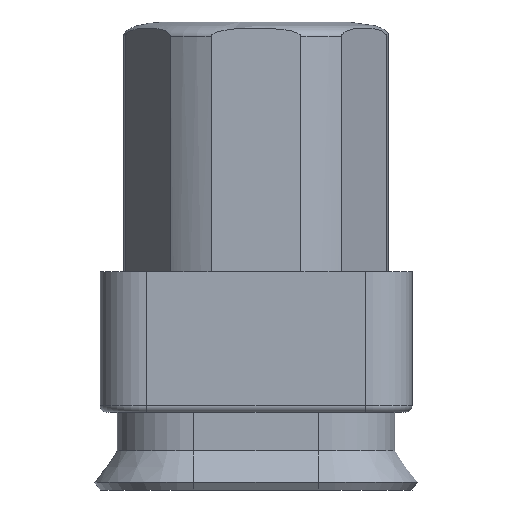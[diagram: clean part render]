
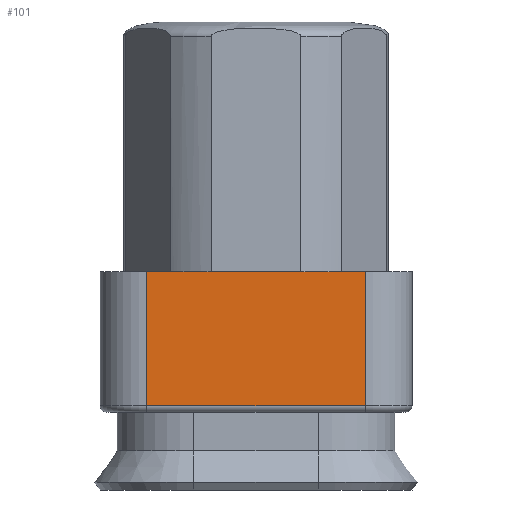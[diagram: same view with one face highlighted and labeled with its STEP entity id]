
A CAD part, front view. The second image highlights one B-rep face of the part: STEP entity #101.
In plain terms, the highlighted planar face has unit normal (0, -1, 0).
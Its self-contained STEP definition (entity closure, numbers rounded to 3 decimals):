
#101 = ADVANCED_FACE( '', ( #241 ), #242, .T. );
#241 = FACE_OUTER_BOUND( '', #424, .T. );
#242 = PLANE( '', #425 );
#424 = EDGE_LOOP( '', ( #659, #660, #661, #662, #663, #664 ) );
#425 = AXIS2_PLACEMENT_3D( '', #665, #666, #667 );
#659 = ORIENTED_EDGE( '', *, *, #1096, .F. );
#660 = ORIENTED_EDGE( '', *, *, #1097, .T. );
#661 = ORIENTED_EDGE( '', *, *, #1098, .T. );
#662 = ORIENTED_EDGE( '', *, *, #1076, .F. );
#663 = ORIENTED_EDGE( '', *, *, #1099, .F. );
#664 = ORIENTED_EDGE( '', *, *, #1100, .F. );
#665 = CARTESIAN_POINT( '', ( -3.5, -3.5, -6. ) );
#666 = DIRECTION( '', ( 0., -1., 0. ) );
#667 = DIRECTION( '', ( 0., 0., -1. ) );
#1076 = EDGE_CURVE( '', #1277, #1279, #1280, .T. );
#1096 = EDGE_CURVE( '', #1310, #1311, #1312, .T. );
#1097 = EDGE_CURVE( '', #1310, #1313, #1314, .T. );
#1098 = EDGE_CURVE( '', #1313, #1279, #1315, .T. );
#1099 = EDGE_CURVE( '', #1316, #1277, #1317, .T. );
#1100 = EDGE_CURVE( '', #1311, #1316, #1318, .T. );
#1277 = VERTEX_POINT( '', #1571 );
#1279 = VERTEX_POINT( '', #1573 );
#1280 = LINE( '', #1574, #1575 );
#1310 = VERTEX_POINT( '', #1636 );
#1311 = VERTEX_POINT( '', #1637 );
#1312 = LINE( '', #1638, #1639 );
#1313 = VERTEX_POINT( '', #1640 );
#1314 = LINE( '', #1641, #1642 );
#1315 = LINE( '', #1643, #1644 );
#1316 = VERTEX_POINT( '', #1645 );
#1317 = LINE( '', #1646, #1647 );
#1318 = LINE( '', #1648, #1649 );
#1571 = CARTESIAN_POINT( '', ( 2.411, -3.5, -1.5 ) );
#1573 = CARTESIAN_POINT( '', ( 3.5, -3.5, -1.5 ) );
#1574 = CARTESIAN_POINT( '', ( -3.5, -3.5, -1.5 ) );
#1575 = VECTOR( '', #1968, 1000. );
#1636 = CARTESIAN_POINT( '', ( -3.5, -3.5, -5.8 ) );
#1637 = CARTESIAN_POINT( '', ( -3.5, -3.5, -1.5 ) );
#1638 = CARTESIAN_POINT( '', ( -3.5, -3.5, -6. ) );
#1639 = VECTOR( '', #1992, 1000. );
#1640 = CARTESIAN_POINT( '', ( 3.5, -3.5, -5.8 ) );
#1641 = CARTESIAN_POINT( '', ( 3.5, -3.5, -5.8 ) );
#1642 = VECTOR( '', #1993, 1000. );
#1643 = CARTESIAN_POINT( '', ( 3.5, -3.5, -6. ) );
#1644 = VECTOR( '', #1994, 1000. );
#1645 = CARTESIAN_POINT( '', ( -2.411, -3.5, -1.5 ) );
#1646 = CARTESIAN_POINT( '', ( -3.5, -3.5, -1.5 ) );
#1647 = VECTOR( '', #1995, 1000. );
#1648 = CARTESIAN_POINT( '', ( -3.5, -3.5, -1.5 ) );
#1649 = VECTOR( '', #1996, 1000. );
#1968 = DIRECTION( '', ( 1., 0., 0. ) );
#1992 = DIRECTION( '', ( 0., 0., 1. ) );
#1993 = DIRECTION( '', ( 1., 0., 0. ) );
#1994 = DIRECTION( '', ( 0., 0., 1. ) );
#1995 = DIRECTION( '', ( 1., 0., 0. ) );
#1996 = DIRECTION( '', ( 1., 0., 0. ) );
